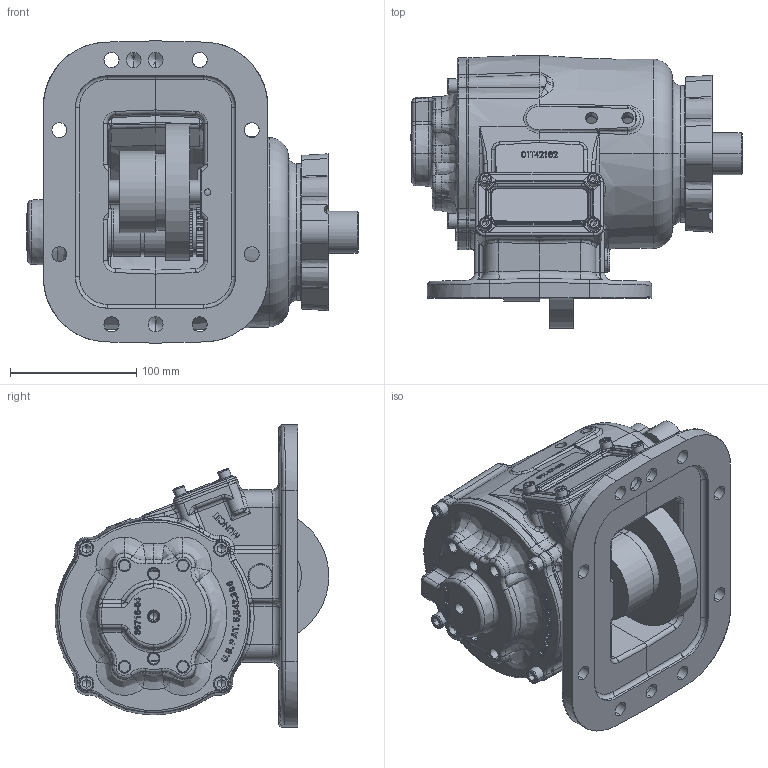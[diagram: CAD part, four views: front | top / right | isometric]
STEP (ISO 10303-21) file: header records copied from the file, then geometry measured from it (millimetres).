
FILE_DESCRIPTION (( 'STEP AP203' ), '1' );
FILE_NAME ('CS8S-XXXXX-X2GX.STEP', '2012-05-31T15:17:36', ( '' ), ( '' ), 'SwSTEP 2.0', 'SolidWorks 2012', '' );
FILE_SCHEMA (( 'CONFIG_CONTROL_DESIGN' ));
Products named in the file (4): CS8S-XXXXX-X2GX; 14T39137; 06T37088_06T37088; CS8S-XXXXX-X2XX
Assembly tree (3 placements, depth 2):
  CS8S-XXXXX-X2GX
    CS8S-XXXXX-X2XX
    06T37088_06T37088
    14T39137
Bounding box: 263.11 x 216.55 x 239.61 mm (x, y, z)
Volume: 2006366.3 mm3; surface area: 472509 mm2
Topology: 6 solids, 6 shells, 2457 faces, 6268 edges, 3902 vertices
Faces by surface type: bspline 812, plane 727, cylinder 570, cone 246, torus 96, sphere 6
Entity records: 148758 total; most frequent: CARTESIAN_POINT 95324, ORIENTED_EDGE 12386, DIRECTION 8941, EDGE_CURVE 6193, VERTEX_POINT 3902, AXIS2_PLACEMENT_3D 3275, EDGE_LOOP 2689, ADVANCED_FACE 2457
